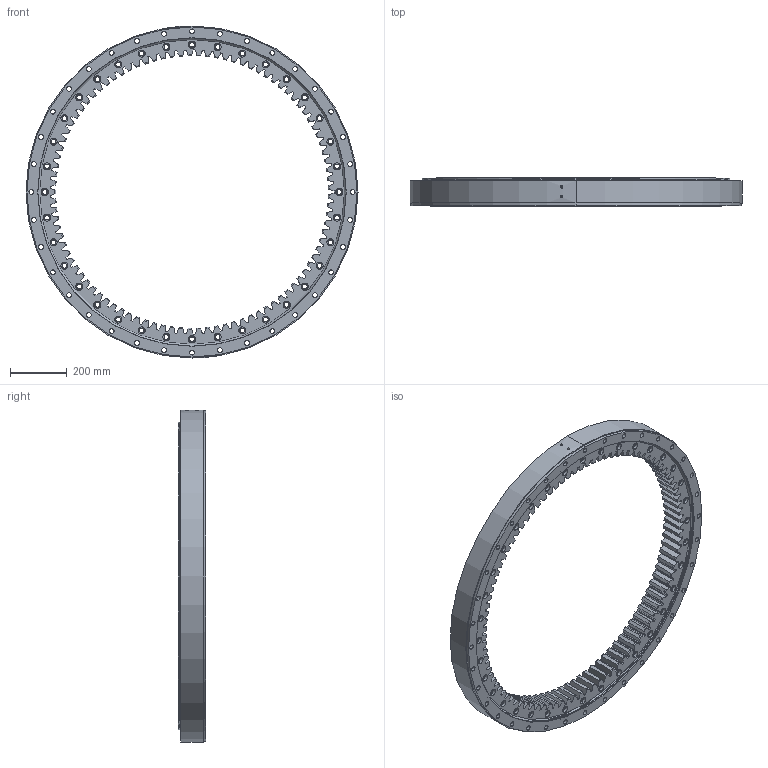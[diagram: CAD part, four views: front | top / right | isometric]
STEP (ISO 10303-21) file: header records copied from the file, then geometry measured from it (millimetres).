
FILE_DESCRIPTION (( 'STEP AP214' ), '1' );
FILE_NAME ('B2222-1-1172BB.STEP', '2022-11-24T07:05:33', ( '' ), ( '' ), 'SwSTEP 2.0', 'SolidWorks 2020', '' );
FILE_SCHEMA (( 'AUTOMOTIVE_DESIGN' ));
Length unit declared in the file: millimetre
Products named in the file (1): B2222-1-1172BB
Bounding box: 1172 x 98 x 1172 mm (x, y, z)
Volume: 25999914.1 mm3; surface area: 2699795.3 mm2
Topology: 4 solids, 4 shells, 1115 faces, 3059 edges, 2038 vertices
Faces by surface type: plane 482, cylinder 431, cone 202
Entity records: 37142 total; most frequent: CARTESIAN_POINT 8153, ORIENTED_EDGE 6118, DIRECTION 5923, EDGE_CURVE 3059, AXIS2_PLACEMENT_3D 2160, VERTEX_POINT 2038, LINE 1603, VECTOR 1603
